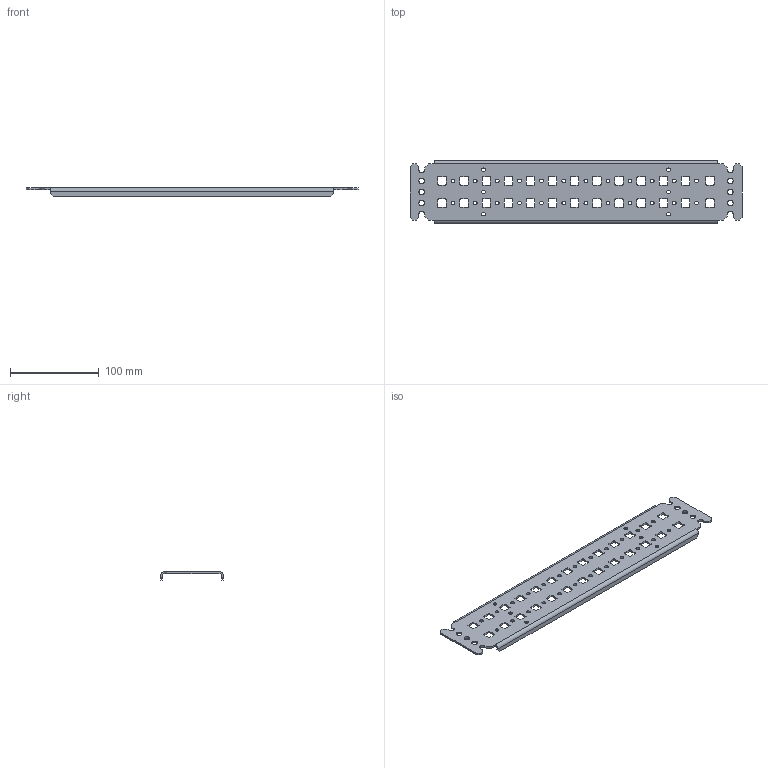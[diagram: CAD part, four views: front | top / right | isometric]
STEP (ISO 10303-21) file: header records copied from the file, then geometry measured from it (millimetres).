
FILE_DESCRIPTION (( 'STEP AP214' ), '1' );
FILE_NAME ('MG 40.06 R Ðåéêà ìîíòàæíàÿ.STEP', '2022-09-07T08:53:57', ( '' ), ( '' ), 'SwSTEP 2.0', 'SolidWorks 2018', '' );
FILE_SCHEMA (( 'AUTOMOTIVE_DESIGN' ));
Length unit declared in the file: millimetre
Products named in the file (1): MG 40.06 R Ðåéêà ìîíòàæíàÿ
Bounding box: 375 x 70.91 x 9.3 mm (x, y, z)
Volume: 53594 mm3; surface area: 58441.1 mm2
Topology: 1 solids, 1 shells, 338 faces, 992 edges, 656 vertices
Faces by surface type: cylinder 184, plane 154
Entity records: 11618 total; most frequent: DIRECTION 2038, CARTESIAN_POINT 1987, ORIENTED_EDGE 1984, EDGE_CURVE 992, AXIS2_PLACEMENT_3D 707, VERTEX_POINT 656, VECTOR 624, LINE 624
